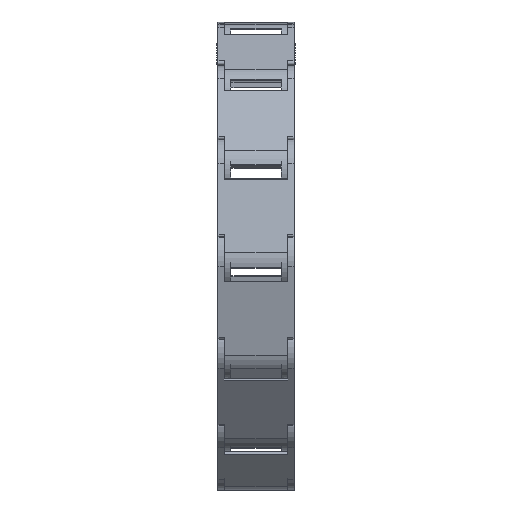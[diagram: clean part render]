
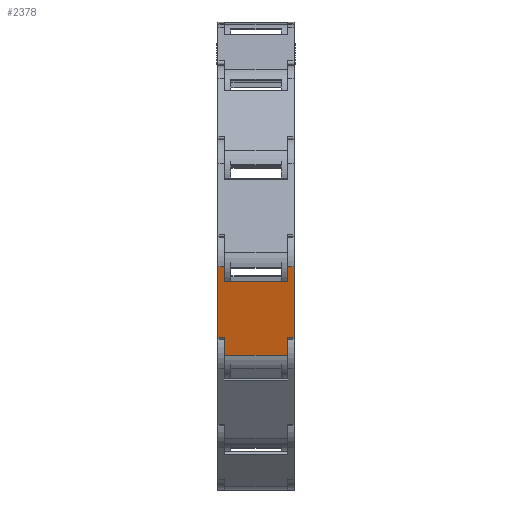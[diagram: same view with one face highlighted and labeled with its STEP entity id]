
A CAD part, front view. The second image highlights one B-rep face of the part: STEP entity #2378.
In plain terms, the highlighted planar face has unit normal (0, -0.972, -0.233) as drawn and (0, 0, -1) by its records, which use the part's own axes.
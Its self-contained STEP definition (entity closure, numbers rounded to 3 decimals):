
#343=DIRECTION('',(0.,1.,0.));
#344=VECTOR('',#343,26.775);
#345=CARTESIAN_POINT('',(-14.,-33.5,-11.75));
#346=LINE('',#345,#344);
#427=DIRECTION('',(0.,1.,0.));
#428=VECTOR('',#427,6.725);
#429=CARTESIAN_POINT('',(-11.5,-6.725,-11.75));
#430=LINE('',#429,#428);
#630=DIRECTION('',(0.,-1.,0.));
#631=VECTOR('',#630,5.672);
#632=CARTESIAN_POINT('',(-11.6,-27.828,-11.75));
#633=LINE('',#632,#631);
#801=DIRECTION('',(1.,0.,0.));
#802=VECTOR('',#801,23.);
#803=CARTESIAN_POINT('',(-11.5,0.,-11.75));
#804=LINE('',#803,#802);
#976=DIRECTION('',(0.,1.,0.));
#977=VECTOR('',#976,5.672);
#978=CARTESIAN_POINT('',(11.6,-33.5,-11.75));
#979=LINE('',#978,#977);
#1057=DIRECTION('',(1.,0.,0.));
#1058=VECTOR('',#1057,2.5);
#1059=CARTESIAN_POINT('',(-14.,-6.725,-11.75));
#1060=LINE('',#1059,#1058);
#1064=DIRECTION('',(1.,0.,0.));
#1065=VECTOR('',#1064,2.4);
#1066=CARTESIAN_POINT('',(-14.,-33.5,-11.75));
#1067=LINE('',#1066,#1065);
#1071=DIRECTION('',(-1.,0.,0.));
#1072=VECTOR('',#1071,23.2);
#1073=CARTESIAN_POINT('',(11.6,-27.828,-11.75));
#1074=LINE('',#1073,#1072);
#1078=DIRECTION('',(1.,0.,0.));
#1079=VECTOR('',#1078,2.4);
#1080=CARTESIAN_POINT('',(11.6,-33.5,-11.75));
#1081=LINE('',#1080,#1079);
#1085=DIRECTION('',(1.,0.,0.));
#1086=VECTOR('',#1085,2.5);
#1087=CARTESIAN_POINT('',(11.5,-6.725,-11.75));
#1088=LINE('',#1087,#1086);
#1274=DIRECTION('',(0.,1.,0.));
#1275=VECTOR('',#1274,26.775);
#1276=CARTESIAN_POINT('',(14.,-33.5,-11.75));
#1277=LINE('',#1276,#1275);
#1347=DIRECTION('',(0.,-1.,0.));
#1348=VECTOR('',#1347,6.725);
#1349=CARTESIAN_POINT('',(11.5,0.,-11.75));
#1350=LINE('',#1349,#1348);
#1465=CARTESIAN_POINT('',(-14.,-33.5,-11.75));
#1467=VERTEX_POINT('',#1465);
#1469=CARTESIAN_POINT('',(14.,-33.5,-11.75));
#1471=VERTEX_POINT('',#1469);
#1476=CARTESIAN_POINT('',(-11.6,-33.5,-11.75));
#1477=VERTEX_POINT('',#1476);
#1478=CARTESIAN_POINT('',(11.6,-33.5,-11.75));
#1479=VERTEX_POINT('',#1478);
#1492=CARTESIAN_POINT('',(11.6,-27.828,-11.75));
#1493=CARTESIAN_POINT('',(-11.6,-27.828,-11.75));
#1494=VERTEX_POINT('',#1492);
#1495=VERTEX_POINT('',#1493);
#1544=CARTESIAN_POINT('',(-11.5,0.,-11.75));
#1545=CARTESIAN_POINT('',(11.5,0.,-11.75));
#1546=VERTEX_POINT('',#1544);
#1547=VERTEX_POINT('',#1545);
#1556=CARTESIAN_POINT('',(-14.,-6.725,-11.75));
#1557=VERTEX_POINT('',#1556);
#1558=CARTESIAN_POINT('',(-11.5,-6.725,-11.75));
#1559=VERTEX_POINT('',#1558);
#1560=CARTESIAN_POINT('',(14.,-6.725,-11.75));
#1562=VERTEX_POINT('',#1560);
#1566=CARTESIAN_POINT('',(11.5,-6.725,-11.75));
#1567=VERTEX_POINT('',#1566);
#2354=CARTESIAN_POINT('',(-14.,-33.5,-11.75));
#2355=DIRECTION('',(0.,0.,-1.));
#2356=DIRECTION('',(0.,1.,0.));
#2357=AXIS2_PLACEMENT_3D('',#2354,#2355,#2356);
#2358=PLANE('',#2357);
#2360=ORIENTED_EDGE('',*,*,#2359,.F.);
#2361=ORIENTED_EDGE('',*,*,#1700,.F.);
#2362=ORIENTED_EDGE('',*,*,#1937,.T.);
#2363=ORIENTED_EDGE('',*,*,#1993,.F.);
#2365=ORIENTED_EDGE('',*,*,#2364,.F.);
#2366=ORIENTED_EDGE('',*,*,#2320,.F.);
#2367=ORIENTED_EDGE('',*,*,#1960,.T.);
#2369=ORIENTED_EDGE('',*,*,#2368,.T.);
#2371=ORIENTED_EDGE('',*,*,#2370,.F.);
#2373=ORIENTED_EDGE('',*,*,#2372,.F.);
#2374=ORIENTED_EDGE('',*,*,#2146,.F.);
#2375=ORIENTED_EDGE('',*,*,#1777,.F.);
#2376=EDGE_LOOP('',(#2360,#2361,#2362,#2363,#2365,#2366,#2367,#2369,#2371,#2373,
#2374,#2375));
#2377=FACE_OUTER_BOUND('',#2376,.F.);
#2378=ADVANCED_FACE('',(#2377),#2358,.T.);
#1700=EDGE_CURVE('',#1467,#1557,#346,.T.);
#1777=EDGE_CURVE('',#1559,#1546,#430,.T.);
#1937=EDGE_CURVE('',#1467,#1477,#1067,.T.);
#1960=EDGE_CURVE('',#1479,#1471,#1081,.T.);
#1993=EDGE_CURVE('',#1495,#1477,#633,.T.);
#2146=EDGE_CURVE('',#1546,#1547,#804,.T.);
#2320=EDGE_CURVE('',#1479,#1494,#979,.T.);
#2359=EDGE_CURVE('',#1557,#1559,#1060,.T.);
#2364=EDGE_CURVE('',#1494,#1495,#1074,.T.);
#2368=EDGE_CURVE('',#1471,#1562,#1277,.T.);
#2370=EDGE_CURVE('',#1567,#1562,#1088,.T.);
#2372=EDGE_CURVE('',#1547,#1567,#1350,.T.);
